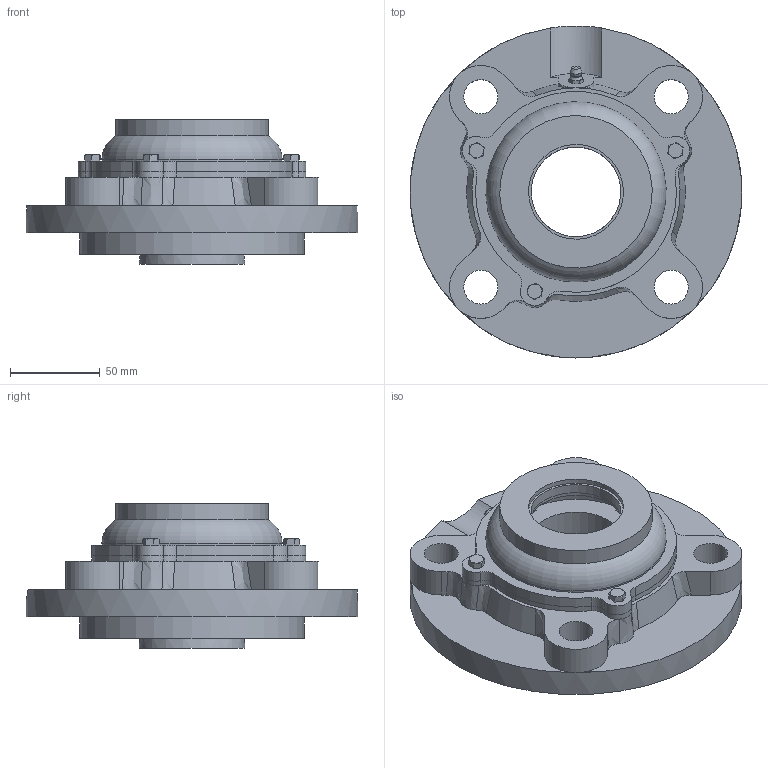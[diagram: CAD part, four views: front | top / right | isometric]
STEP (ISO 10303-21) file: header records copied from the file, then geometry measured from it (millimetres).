
FILE_DESCRIPTION((''),'2;1');
FILE_NAME('\\Ts-tgl068\j-cad-d-base\00.3DCADデータ作成フォルダ\02.フランジ形\CUKFC200\CUKFC212C+H.stp','2014-05-22T08:55:09',('btec_1106_2'),(''),'Autodesk Inventor 2012','Autodesk Inventor 2012','');
FILE_SCHEMA(('AUTOMOTIVE_DESIGN { 1 0 10303 214 1 1 1 1 }'));
Length unit declared in the file: millimetre
Products named in the file (7): CUKFC200C+H; CFC211; UK211; GU1; 211C50R; 211C50; M5X0
Assembly tree (8 placements, depth 3):
  CUKFC200C+H
    CFC211
    UK211
    GU1
    211C50R
      211C50
      M5X0  x3
Bounding box: 185 x 185 x 80.5 mm (x, y, z)
Volume: 709815 mm3; surface area: 153248 mm2
Topology: 7 solids, 7 shells, 345 faces, 891 edges, 576 vertices
Faces by surface type: plane 125, cylinder 100, cone 98, bspline 14, sphere 4, torus 4
Full cylindrical faces by diameter (mm): 4.134 x3, 5 x3, 5.359 x1, 6 x3, 6.35 x1, 19 x4, 50 x2, 52.8 x2, 70 x2, 85 x1, 98 x1, 100.5 x1, 102 x2, 125 x1, 185 x1
Entity records: 10035 total; most frequent: CARTESIAN_POINT 2683, ORIENTED_EDGE 1522, DIRECTION 1469, EDGE_CURVE 761, AXIS2_PLACEMENT_3D 607, VERTEX_POINT 514, EDGE_LOOP 390, FACE_OUTER_BOUND 311
